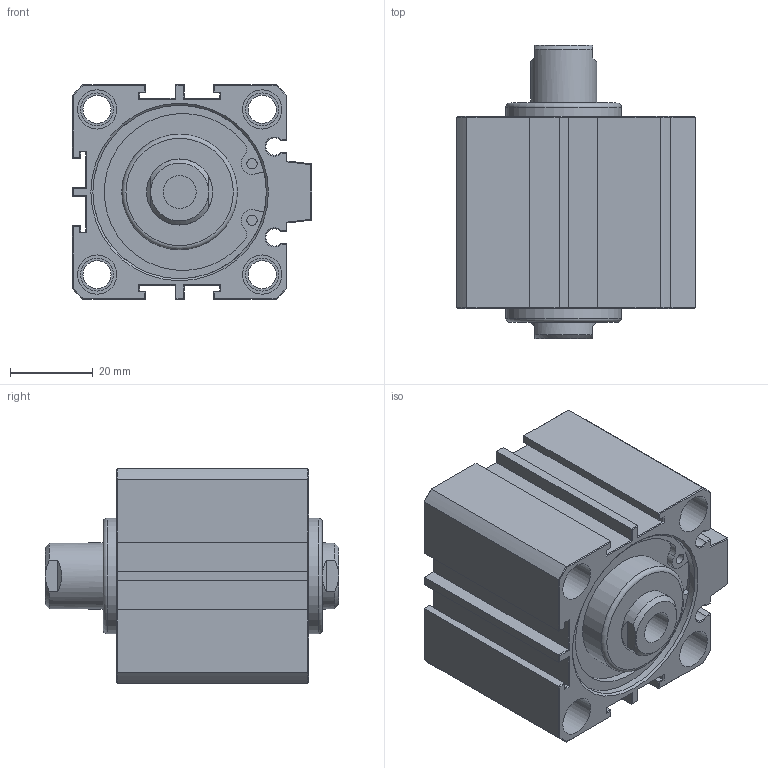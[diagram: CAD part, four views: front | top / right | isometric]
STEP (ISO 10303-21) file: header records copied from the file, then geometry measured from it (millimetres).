
FILE_DESCRIPTION(/* description */ (''),/* implementation_level */ '2;1');
FILE_NAME(/* name */ 'AJC-SWM40X10N',/* time_stamp */ '2019-07-19T10:33:40+08:00',/* author */ ('JEFF HUANG'),/* organization */ ('TAIWAN AMAC CLAMP INDUSTRIAL CO., LTD.'),/* preprocessor_version */ 'ST-DEVELOPER v16.7',/* originating_system */ 'DEX',/* authorisation */ $);
FILE_SCHEMA (('AP203_CONFIGURATION_CONTROLLED_3D_DESIGN_OF_MECHANICAL_PARTS_AND_ASSEMBLIES_MIM_LF { 1 0 10303 203 3 1 4 }','AUTOMOTIVE_DESIGN {1 0 10303 214 3 1 1}'));
Length unit declared in the file: millimetre
Products named in the file (1): AJC-SWM40X10N
Bounding box: 58 x 71.1 x 52 mm (x, y, z)
Volume: 110101.3 mm3; surface area: 27421.9 mm2
Topology: 1 solids, 1 shells, 273 faces, 595 edges, 354 vertices
Faces by surface type: plane 198, cylinder 53, cone 20, torus 2
Full cylindrical faces by diameter (mm): 2.5 x4, 6.8 x4, 8 x10, 9.147 x2, 9.5 x8, 16 x1, 28 x2, 42 x2
Entity records: 9025 total; most frequent: CARTESIAN_POINT 1276, DIRECTION 1206, ORIENTED_EDGE 1106, EDGE_CURVE 553, AXIS2_PLACEMENT_3D 411, LINE 384, VECTOR 384, VERTEX_POINT 351
